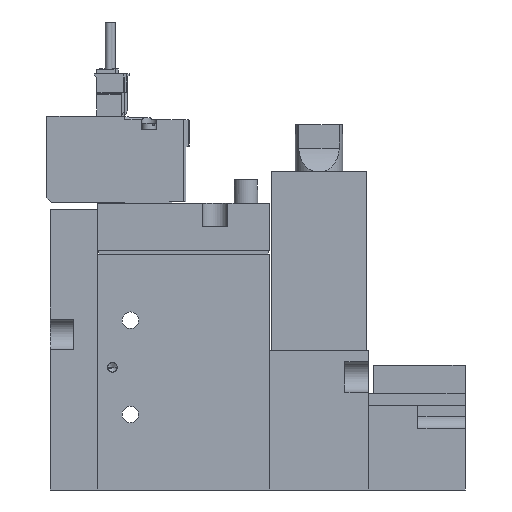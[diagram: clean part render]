
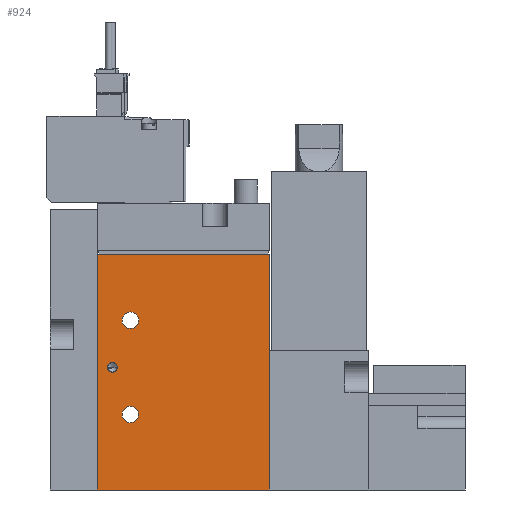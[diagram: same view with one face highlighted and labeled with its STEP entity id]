
A CAD part, left-side view. The second image highlights one B-rep face of the part: STEP entity #924.
In plain terms, the highlighted planar face has unit normal (-1, 0, 0) as drawn and (1, 0, 0) by its records, which use the part's own axes.
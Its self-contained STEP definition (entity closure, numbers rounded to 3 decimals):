
#924=ADVANCED_FACE('',(#1398,#1399,#1400,#1401),#1402,.F.);
#1398=FACE_BOUND('',#2229,.T.);
#1399=FACE_BOUND('',#2230,.T.);
#1400=FACE_BOUND('',#2231,.T.);
#1401=FACE_OUTER_BOUND('',#2232,.T.);
#1402=PLANE('',#2233);
#2229=EDGE_LOOP('',(#3449));
#2230=EDGE_LOOP('',(#3450));
#2231=EDGE_LOOP('',(#3451));
#2232=EDGE_LOOP('',(#3452,#3453,#3454,#3455));
#2233=AXIS2_PLACEMENT_3D('',#3456,#3457,#3458);
#3449=ORIENTED_EDGE('',*,*,#5980,.F.);
#3450=ORIENTED_EDGE('',*,*,#5981,.T.);
#3451=ORIENTED_EDGE('',*,*,#5982,.T.);
#3452=ORIENTED_EDGE('',*,*,#5983,.T.);
#3453=ORIENTED_EDGE('',*,*,#5984,.F.);
#3454=ORIENTED_EDGE('',*,*,#5985,.F.);
#3455=ORIENTED_EDGE('',*,*,#5986,.T.);
#3456=CARTESIAN_POINT('',(8.5,-19.444,50.0));
#3457=DIRECTION('',(-1.0,0.0,0.0));
#3458=DIRECTION('',(0.0,0.0,1.0));
#5980=EDGE_CURVE('',#7016,#7016,#7017,.T.);
#5981=EDGE_CURVE('',#7018,#7018,#7019,.T.);
#5982=EDGE_CURVE('',#7020,#7020,#7021,.T.);
#5983=EDGE_CURVE('',#7022,#7023,#7024,.T.);
#5984=EDGE_CURVE('',#7025,#7023,#7026,.T.);
#5985=EDGE_CURVE('',#7027,#7025,#7028,.T.);
#5986=EDGE_CURVE('',#7027,#7022,#7029,.T.);
#7016=VERTEX_POINT('',#8754);
#7017=CIRCLE('',#8755,1.0);
#7018=VERTEX_POINT('',#8756);
#7019=CIRCLE('',#8757,1.75);
#7020=VERTEX_POINT('',#8758);
#7021=CIRCLE('',#8759,1.75);
#7022=VERTEX_POINT('',#8760);
#7023=VERTEX_POINT('',#8761);
#7024=LINE('',#8762,#8763);
#7025=VERTEX_POINT('',#8764);
#7026=LINE('',#8765,#8766);
#7027=VERTEX_POINT('',#8767);
#7028=LINE('',#8768,#8769);
#7029=LINE('',#8770,#8771);
#8754=CARTESIAN_POINT('',(8.5,-17.244,26.0));
#8755=AXIS2_PLACEMENT_3D('',#10865,#10866,#10867);
#8756=CARTESIAN_POINT('',(8.5,-10.694,36.0));
#8757=AXIS2_PLACEMENT_3D('',#10868,#10869,#10870);
#8758=CARTESIAN_POINT('',(8.5,-10.694,16.0));
#8759=AXIS2_PLACEMENT_3D('',#10871,#10872,#10873);
#8760=CARTESIAN_POINT('',(8.5,-19.444,0.0));
#8761=CARTESIAN_POINT('',(8.5,17.056,0.0));
#8762=CARTESIAN_POINT('',(8.5,-19.444,0.0));
#8763=VECTOR('',#10874,1.0);
#8764=CARTESIAN_POINT('',(8.5,17.056,50.0));
#8765=CARTESIAN_POINT('',(8.5,17.056,50.0));
#8766=VECTOR('',#10875,1.0);
#8767=CARTESIAN_POINT('',(8.5,-19.444,50.0));
#8768=CARTESIAN_POINT('',(8.5,-19.444,50.0));
#8769=VECTOR('',#10876,1.0);
#8770=CARTESIAN_POINT('',(8.5,-19.444,50.0));
#8771=VECTOR('',#10877,1.0);
#10865=CARTESIAN_POINT('',(8.5,-16.244,26.0));
#10866=DIRECTION('',(1.0,0.,0.0));
#10867=DIRECTION('',(0.,-1.0,0.0));
#10868=CARTESIAN_POINT('',(8.5,-12.444,36.0));
#10869=DIRECTION('',(-1.0,0.0,0.0));
#10870=DIRECTION('',(0.0,1.0,0.0));
#10871=CARTESIAN_POINT('',(8.5,-12.444,16.0));
#10872=DIRECTION('',(-1.0,0.0,0.0));
#10873=DIRECTION('',(0.0,1.0,0.0));
#10874=DIRECTION('',(0.0,1.0,0.0));
#10875=DIRECTION('',(0.0,0.0,-1.0));
#10876=DIRECTION('',(0.0,1.0,0.0));
#10877=DIRECTION('',(0.0,0.0,-1.0));
